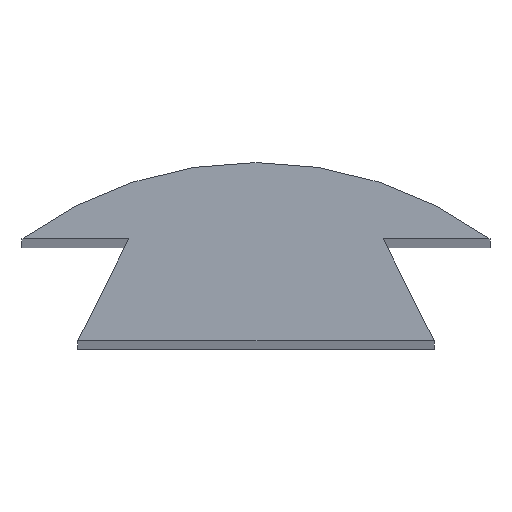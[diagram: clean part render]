
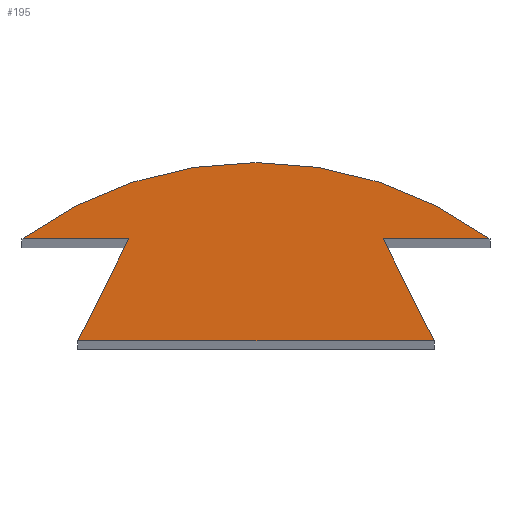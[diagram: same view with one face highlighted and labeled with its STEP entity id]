
A CAD part, top view. The second image highlights one B-rep face of the part: STEP entity #195.
In plain terms, the highlighted planar face has unit normal (0, 0, 1).
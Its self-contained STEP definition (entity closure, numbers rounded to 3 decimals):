
#7 = ORIENTED_EDGE ( 'NONE', *, *, #59, .T. ) ;
#9 = CIRCLE ( 'NONE', #86, 7.803 ) ;
#19 = VERTEX_POINT ( 'NONE', #39 ) ;
#20 = PLANE ( 'NONE',  #162 ) ;
#25 = VERTEX_POINT ( 'NONE', #276 ) ;
#37 = CARTESIAN_POINT ( 'NONE',  ( 0., -4.303, 100. ) ) ;
#39 = CARTESIAN_POINT ( 'NONE',  ( -2.5, 2., 100. ) ) ;
#45 = CARTESIAN_POINT ( 'NONE',  ( 3.5, 0., 100. ) ) ;
#59 = EDGE_CURVE ( 'NONE', #19, #224, #234, .T. ) ;
#61 = LINE ( 'NONE', #100, #190 ) ;
#63 = DIRECTION ( 'NONE',  ( 1., 0., 0. ) ) ;
#83 = FACE_OUTER_BOUND ( 'NONE', #238, .T. ) ;
#86 = AXIS2_PLACEMENT_3D ( 'NONE', #37, #236, #63 ) ;
#92 = CARTESIAN_POINT ( 'NONE',  ( -3.5, 0., 100. ) ) ;
#94 = CARTESIAN_POINT ( 'NONE',  ( 2.5, 2., 100. ) ) ;
#96 = EDGE_CURVE ( 'NONE', #122, #25, #61, .T. ) ;
#100 = CARTESIAN_POINT ( 'NONE',  ( 3.5, 0., 100. ) ) ;
#101 = VECTOR ( 'NONE', #135, 1000. ) ;
#107 = CARTESIAN_POINT ( 'NONE',  ( -4.6, 2., 100. ) ) ;
#115 = VECTOR ( 'NONE', #207, 1000. ) ;
#122 = VERTEX_POINT ( 'NONE', #45 ) ;
#135 = DIRECTION ( 'NONE',  ( 1., 0., 0. ) ) ;
#141 = LINE ( 'NONE', #94, #303 ) ;
#151 = CARTESIAN_POINT ( 'NONE',  ( -4.6, 2., 100. ) ) ;
#153 = CARTESIAN_POINT ( 'NONE',  ( -3.5, 0., 100. ) ) ;
#158 = VECTOR ( 'NONE', #175, 1000. ) ;
#160 = ORIENTED_EDGE ( 'NONE', *, *, #169, .T. ) ;
#162 = AXIS2_PLACEMENT_3D ( 'NONE', #255, #196, #219 ) ;
#165 = ORIENTED_EDGE ( 'NONE', *, *, #188, .T. ) ;
#169 = EDGE_CURVE ( 'NONE', #275, #252, #9, .T. ) ;
#172 = DIRECTION ( 'NONE',  ( -0.447, 0.894, 0. ) ) ;
#175 = DIRECTION ( 'NONE',  ( 1., 0., 0. ) ) ;
#188 = EDGE_CURVE ( 'NONE', #25, #275, #141, .T. ) ;
#190 = VECTOR ( 'NONE', #172, 1000. ) ;
#195 = ADVANCED_FACE ( 'NONE', ( #83 ), #20, .T. ) ;
#196 = DIRECTION ( 'NONE',  ( 0., 0., 1. ) ) ;
#204 = CARTESIAN_POINT ( 'NONE',  ( 4.6, 2., 100. ) ) ;
#205 = ORIENTED_EDGE ( 'NONE', *, *, #299, .T. ) ;
#207 = DIRECTION ( 'NONE',  ( -0.447, -0.894, 0. ) ) ;
#212 = LINE ( 'NONE', #151, #101 ) ;
#218 = DIRECTION ( 'NONE',  ( 1., 0., 0. ) ) ;
#219 = DIRECTION ( 'NONE',  ( 1., 0., 0. ) ) ;
#224 = VERTEX_POINT ( 'NONE', #92 ) ;
#231 = LINE ( 'NONE', #153, #158 ) ;
#234 = LINE ( 'NONE', #289, #115 ) ;
#236 = DIRECTION ( 'NONE',  ( 0., 0., 1. ) ) ;
#238 = EDGE_LOOP ( 'NONE', ( #7, #205, #256, #165, #160, #251 ) ) ;
#245 = EDGE_CURVE ( 'NONE', #252, #19, #212, .T. ) ;
#251 = ORIENTED_EDGE ( 'NONE', *, *, #245, .T. ) ;
#252 = VERTEX_POINT ( 'NONE', #107 ) ;
#255 = CARTESIAN_POINT ( 'NONE',  ( 0., -4.303, 100. ) ) ;
#256 = ORIENTED_EDGE ( 'NONE', *, *, #96, .T. ) ;
#275 = VERTEX_POINT ( 'NONE', #204 ) ;
#276 = CARTESIAN_POINT ( 'NONE',  ( 2.5, 2., 100. ) ) ;
#289 = CARTESIAN_POINT ( 'NONE',  ( -2.5, 2., 100. ) ) ;
#299 = EDGE_CURVE ( 'NONE', #224, #122, #231, .T. ) ;
#303 = VECTOR ( 'NONE', #218, 1000. ) ;
